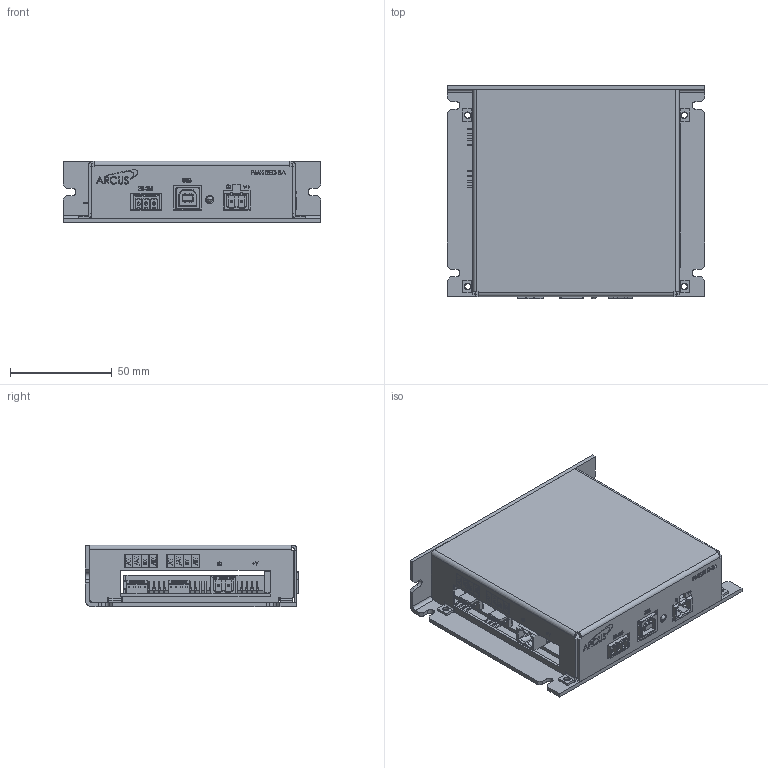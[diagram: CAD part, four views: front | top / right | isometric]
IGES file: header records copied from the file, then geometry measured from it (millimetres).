
Start section: SolidWorks IGES file using analytic representation for surfaces
Global section: file name: C:\Users\IEUser\Documents\Christine folder\Arcus\Project #26 PMX Drawings\PMX-2ED-SA\PMX-2ED-SA Assy.IGS; native system: SolidWorks 2008; preprocessor: SolidWorks 2008; author: IEUser; date: 140509.141847; units: inch
Bounding box: 127 x 105.14 x 30.48 mm (x, y, z)
Surface area: 97424.4 mm2 (no closed solid volume)
Topology: 0 solids, 0 shells, 3211 faces, 24491 edges, 24483 vertices
Faces by surface type: bspline 2819, revolution 392
